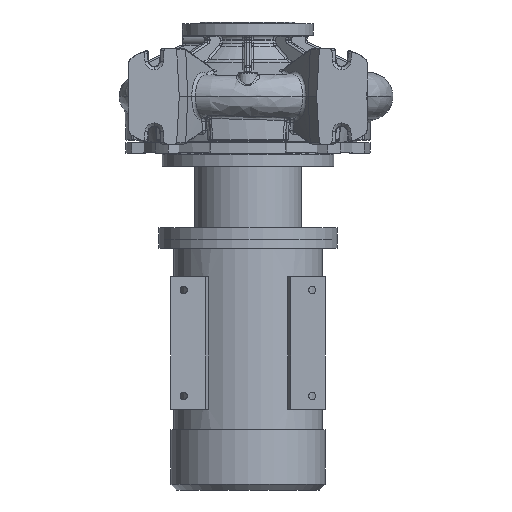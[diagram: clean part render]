
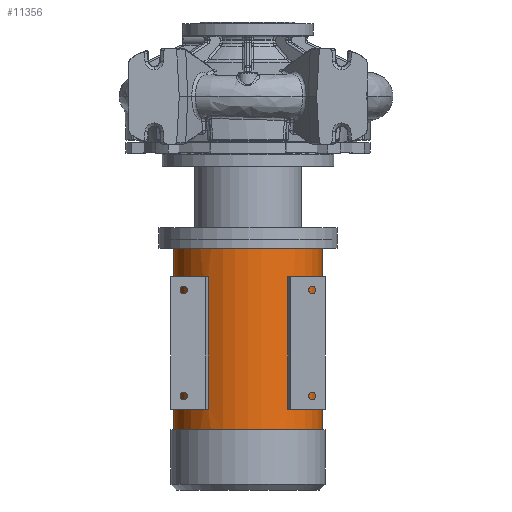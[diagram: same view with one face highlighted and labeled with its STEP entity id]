
A CAD part, front view. The second image highlights one B-rep face of the part: STEP entity #11356.
In plain terms, the highlighted cylindrical face has radius 124.5 mm (diameter 249 mm), a partial arc.
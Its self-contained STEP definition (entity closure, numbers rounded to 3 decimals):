
#874 = DIRECTION ( 'NONE',  ( 0., 0., 1. ) ) ;
#1675 = ORIENTED_EDGE ( 'NONE', *, *, #94163, .F. ) ;
#4693 = DIRECTION ( 'NONE',  ( 0., 0., -1. ) ) ;
#4726 = EDGE_LOOP ( 'NONE', ( #1675, #30429, #54006, #39556 ) ) ;
#7191 = EDGE_CURVE ( 'NONE', #78786, #41289, #23735, .T. ) ;
#9735 = FACE_BOUND ( 'NONE', #20206, .T. ) ;
#11279 = VECTOR ( 'NONE', #874, 1000. ) ;
#11356 = ADVANCED_FACE ( 'NONE', ( #73607, #9735, #92378 ), #98598, .T. ) ;
#11607 = CARTESIAN_POINT ( 'NONE',  ( 0., 0., -525.3 ) ) ;
#13574 = ORIENTED_EDGE ( 'NONE', *, *, #63675, .T. ) ;
#14440 = ORIENTED_EDGE ( 'NONE', *, *, #70048, .T. ) ;
#14978 = VERTEX_POINT ( 'NONE', #100127 ) ;
#15931 = LINE ( 'NONE', #67957, #89848 ) ;
#19634 = EDGE_CURVE ( 'NONE', #44113, #87345, #88047, .T. ) ;
#20182 = CARTESIAN_POINT ( 'NONE',  ( -66.829, -105.044, -303.3 ) ) ;
#20206 = EDGE_LOOP ( 'NONE', ( #62718, #35448, #34377, #14440 ) ) ;
#20519 = DIRECTION ( 'NONE',  ( -1., 0., 0. ) ) ;
#21584 = CARTESIAN_POINT ( 'NONE',  ( -66.829, -105.044, -525.3 ) ) ;
#22057 = VECTOR ( 'NONE', #91142, 1000. ) ;
#22142 = CARTESIAN_POINT ( 'NONE',  ( 124.5, 0., -255.3 ) ) ;
#22877 = DIRECTION ( 'NONE',  ( 0., 0., -1. ) ) ;
#23735 = LINE ( 'NONE', #31273, #101335 ) ;
#24363 = CARTESIAN_POINT ( 'NONE',  ( -66.829, -105.044, -661.3 ) ) ;
#26439 = CARTESIAN_POINT ( 'NONE',  ( 66.829, -105.044, -661.3 ) ) ;
#27367 = DIRECTION ( 'NONE',  ( 0., 0., -1. ) ) ;
#28148 = DIRECTION ( 'NONE',  ( -1., 0., 0. ) ) ;
#28616 = EDGE_CURVE ( 'NONE', #78098, #59005, #52597, .T. ) ;
#28770 = CARTESIAN_POINT ( 'NONE',  ( -75.873, -98.709, -525.3 ) ) ;
#30429 = ORIENTED_EDGE ( 'NONE', *, *, #83427, .T. ) ;
#30871 = CARTESIAN_POINT ( 'NONE',  ( -75.873, -98.709, -303.3 ) ) ;
#31273 = CARTESIAN_POINT ( 'NONE',  ( -75.873, -98.709, -661.3 ) ) ;
#31685 = DIRECTION ( 'NONE',  ( 0., 0., -1. ) ) ;
#31703 = CARTESIAN_POINT ( 'NONE',  ( 75.873, -98.709, -661.3 ) ) ;
#31754 = VECTOR ( 'NONE', #86562, 1000. ) ;
#32807 = AXIS2_PLACEMENT_3D ( 'NONE', #52296, #36912, #44896 ) ;
#33889 = EDGE_CURVE ( 'NONE', #87345, #76358, #100678, .T. ) ;
#34377 = ORIENTED_EDGE ( 'NONE', *, *, #28616, .T. ) ;
#35448 = ORIENTED_EDGE ( 'NONE', *, *, #52053, .T. ) ;
#35951 = DIRECTION ( 'NONE',  ( 0., 0., -1. ) ) ;
#36912 = DIRECTION ( 'NONE',  ( 0., 0., -1. ) ) ;
#38258 = VERTEX_POINT ( 'NONE', #96574 ) ;
#38490 = CARTESIAN_POINT ( 'NONE',  ( 66.829, -105.044, -303.3 ) ) ;
#39556 = ORIENTED_EDGE ( 'NONE', *, *, #59447, .F. ) ;
#39845 = AXIS2_PLACEMENT_3D ( 'NONE', #11607, #43077, #67613 ) ;
#41131 = AXIS2_PLACEMENT_3D ( 'NONE', #103050, #31685, #64190 ) ;
#41289 = VERTEX_POINT ( 'NONE', #28770 ) ;
#41842 = LINE ( 'NONE', #31703, #53076 ) ;
#43077 = DIRECTION ( 'NONE',  ( 0., 0., 1. ) ) ;
#43718 = VERTEX_POINT ( 'NONE', #21584 ) ;
#44113 = VERTEX_POINT ( 'NONE', #22142 ) ;
#44896 = DIRECTION ( 'NONE',  ( -1., 0., 0. ) ) ;
#44975 = CARTESIAN_POINT ( 'NONE',  ( 75.873, -98.709, -525.3 ) ) ;
#44992 = VERTEX_POINT ( 'NONE', #44975 ) ;
#46301 = CARTESIAN_POINT ( 'NONE',  ( 124.5, 0., -661.3 ) ) ;
#47315 = DIRECTION ( 'NONE',  ( 0., 0., -1. ) ) ;
#50445 = CIRCLE ( 'NONE', #39845, 124.5 ) ;
#52053 = EDGE_CURVE ( 'NONE', #14978, #78098, #88426, .T. ) ;
#52135 = ORIENTED_EDGE ( 'NONE', *, *, #94499, .T. ) ;
#52296 = CARTESIAN_POINT ( 'NONE',  ( 0., 0., -255.3 ) ) ;
#52584 = CIRCLE ( 'NONE', #41131, 124.5 ) ;
#52597 = CIRCLE ( 'NONE', #98809, 124.5 ) ;
#53037 = CARTESIAN_POINT ( 'NONE',  ( 75.873, -98.709, -303.3 ) ) ;
#53076 = VECTOR ( 'NONE', #103736, 1000. ) ;
#53719 = EDGE_LOOP ( 'NONE', ( #95656, #52135, #13574, #86845 ) ) ;
#53816 = CIRCLE ( 'NONE', #32807, 124.5 ) ;
#54006 = ORIENTED_EDGE ( 'NONE', *, *, #7191, .F. ) ;
#55731 = DIRECTION ( 'NONE',  ( 1., 0., 0. ) ) ;
#59005 = VERTEX_POINT ( 'NONE', #53037 ) ;
#59447 = EDGE_CURVE ( 'NONE', #92619, #78786, #52584, .T. ) ;
#61759 = CARTESIAN_POINT ( 'NONE',  ( -124.5, 0., -560.3 ) ) ;
#62718 = ORIENTED_EDGE ( 'NONE', *, *, #102178, .F. ) ;
#63675 = EDGE_CURVE ( 'NONE', #38258, #76358, #15931, .T. ) ;
#64190 = DIRECTION ( 'NONE',  ( 1., 0., 0. ) ) ;
#67613 = DIRECTION ( 'NONE',  ( -1., 0., 0. ) ) ;
#67957 = CARTESIAN_POINT ( 'NONE',  ( -124.5, 0., -661.3 ) ) ;
#69032 = DIRECTION ( 'NONE',  ( 0., 0., 1. ) ) ;
#70048 = EDGE_CURVE ( 'NONE', #59005, #44992, #41842, .T. ) ;
#71497 = CARTESIAN_POINT ( 'NONE',  ( 0., 0., -525.3 ) ) ;
#73607 = FACE_OUTER_BOUND ( 'NONE', #53719, .T. ) ;
#76358 = VERTEX_POINT ( 'NONE', #61759 ) ;
#76529 = CARTESIAN_POINT ( 'NONE',  ( 0., 0., -661.3 ) ) ;
#77463 = CARTESIAN_POINT ( 'NONE',  ( 0., 0., -560.3 ) ) ;
#78098 = VERTEX_POINT ( 'NONE', #38490 ) ;
#78786 = VERTEX_POINT ( 'NONE', #30871 ) ;
#83307 = CARTESIAN_POINT ( 'NONE',  ( 124.5, 0., -560.3 ) ) ;
#83427 = EDGE_CURVE ( 'NONE', #43718, #41289, #98396, .T. ) ;
#85273 = AXIS2_PLACEMENT_3D ( 'NONE', #76529, #35951, #20519 ) ;
#86562 = DIRECTION ( 'NONE',  ( 0., 0., -1. ) ) ;
#86845 = ORIENTED_EDGE ( 'NONE', *, *, #33889, .F. ) ;
#87345 = VERTEX_POINT ( 'NONE', #83307 ) ;
#87642 = LINE ( 'NONE', #24363, #11279 ) ;
#88047 = LINE ( 'NONE', #46301, #31754 ) ;
#88426 = LINE ( 'NONE', #26439, #22057 ) ;
#89848 = VECTOR ( 'NONE', #27367, 1000. ) ;
#91142 = DIRECTION ( 'NONE',  ( 0., 0., 1. ) ) ;
#92137 = CARTESIAN_POINT ( 'NONE',  ( 0., 0., -303.3 ) ) ;
#92378 = FACE_BOUND ( 'NONE', #4726, .T. ) ;
#92619 = VERTEX_POINT ( 'NONE', #20182 ) ;
#92840 = DIRECTION ( 'NONE',  ( -1., 0., 0. ) ) ;
#94163 = EDGE_CURVE ( 'NONE', #43718, #92619, #87642, .T. ) ;
#94499 = EDGE_CURVE ( 'NONE', #44113, #38258, #53816, .T. ) ;
#94691 = AXIS2_PLACEMENT_3D ( 'NONE', #71497, #22877, #55731 ) ;
#95656 = ORIENTED_EDGE ( 'NONE', *, *, #19634, .F. ) ;
#96574 = CARTESIAN_POINT ( 'NONE',  ( -124.5, 0., -255.3 ) ) ;
#98396 = CIRCLE ( 'NONE', #94691, 124.5 ) ;
#98598 = CYLINDRICAL_SURFACE ( 'NONE', #85273, 124.5 ) ;
#98809 = AXIS2_PLACEMENT_3D ( 'NONE', #92137, #69032, #28148 ) ;
#100127 = CARTESIAN_POINT ( 'NONE',  ( 66.829, -105.044, -525.3 ) ) ;
#100678 = CIRCLE ( 'NONE', #103066, 124.5 ) ;
#101335 = VECTOR ( 'NONE', #47315, 1000. ) ;
#102178 = EDGE_CURVE ( 'NONE', #14978, #44992, #50445, .T. ) ;
#103050 = CARTESIAN_POINT ( 'NONE',  ( 0., 0., -303.3 ) ) ;
#103066 = AXIS2_PLACEMENT_3D ( 'NONE', #77463, #4693, #92840 ) ;
#103736 = DIRECTION ( 'NONE',  ( 0., 0., -1. ) ) ;
